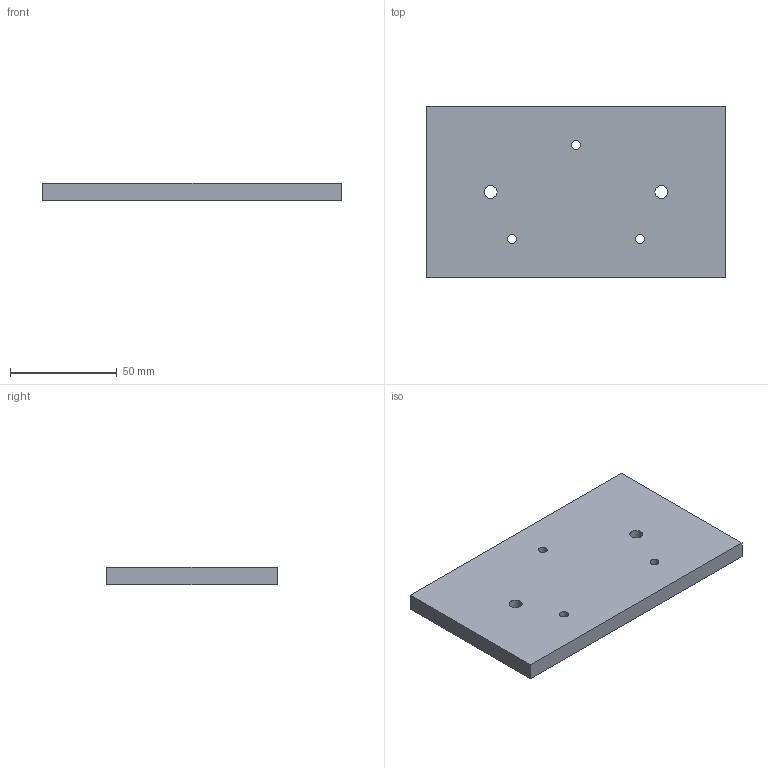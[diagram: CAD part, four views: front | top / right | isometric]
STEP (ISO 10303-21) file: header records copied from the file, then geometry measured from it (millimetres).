
FILE_DESCRIPTION(('Open CASCADE Model'),'2;1');
FILE_NAME('Open CASCADE Shape Model','2026-10-28T05:16:21',('Author'),( 'Open CASCADE'),'Open CASCADE STEP processor 7.8','Open CASCADE 7.8' ,'Unknown');
FILE_SCHEMA(('AUTOMOTIVE_DESIGN { 1 0 10303 214 1 1 1 1 }'));
Length unit declared in the file: millimetre
Products named in the file (1): Open CASCADE STEP translator 7.8 45
Bounding box: 140 x 80 x 8 mm (x, y, z)
Volume: 88810.6 mm3; surface area: 26342.4 mm2
Topology: 1 solids, 1 shells, 11 faces, 27 edges, 18 vertices
Faces by surface type: plane 6, cylinder 5
Full cylindrical faces by diameter (mm): 4.2 x3, 6.03 x2
Entity records: 712 total; most frequent: DIRECTION 115, CARTESIAN_POINT 111, LINE 61, VECTOR 61, ORIENTED_EDGE 54, PCURVE 54, DEFINITIONAL_REPRESENTATION 54, EDGE_CURVE 27
